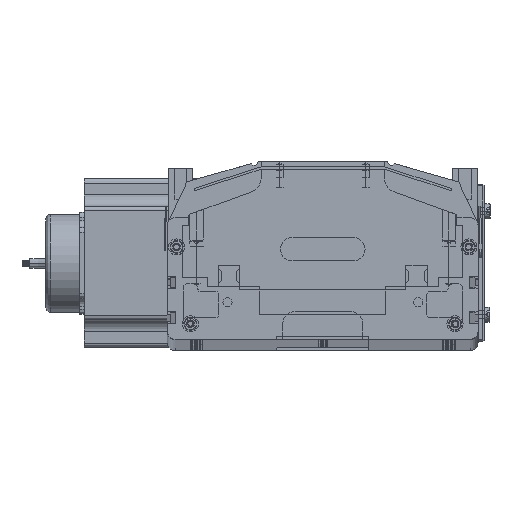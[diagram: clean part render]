
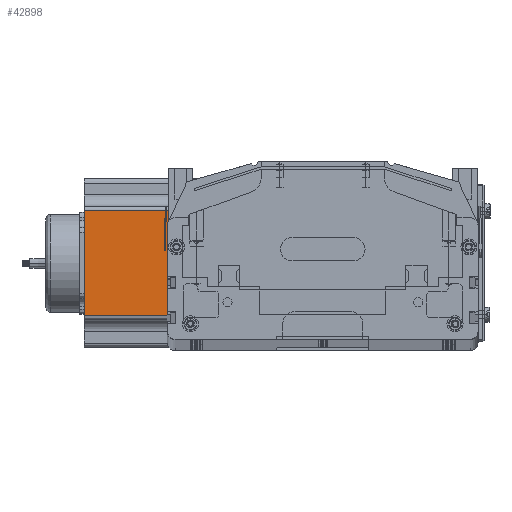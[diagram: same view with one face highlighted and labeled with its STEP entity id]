
A CAD part, top view. The second image highlights one B-rep face of the part: STEP entity #42898.
In plain terms, the highlighted planar face has unit normal (0, 0, 1) as drawn and (0, -1, 0) by its records, which use the part's own axes.
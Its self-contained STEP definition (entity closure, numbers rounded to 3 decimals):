
#39920 = CARTESIAN_POINT ( 'NONE',  ( 88.952, 0., 160.5 ) ) ;
#39922 = LINE ( 'NONE', #39953, #40172 ) ;
#39936 = AXIS2_PLACEMENT_3D ( 'NONE', #40032, #40030, #40177 ) ;
#39940 = PLANE ( 'NONE',  #39936 ) ;
#39941 = DIRECTION ( 'NONE',  ( 1., 0., 0. ) ) ;
#39943 = VECTOR ( 'NONE', #39941, 1000. ) ;
#39953 = CARTESIAN_POINT ( 'NONE',  ( 88.952, 0., 160.5 ) ) ;
#39955 = CARTESIAN_POINT ( 'NONE',  ( 0., 0., 0. ) ) ;
#39957 = LINE ( 'NONE', #39955, #39943 ) ;
#40030 = DIRECTION ( 'NONE',  ( 0., 1., 0. ) ) ;
#40032 = CARTESIAN_POINT ( 'NONE',  ( 0., 0., 160.5 ) ) ;
#40041 = CARTESIAN_POINT ( 'NONE',  ( 21.048, 0., 0. ) ) ;
#40044 = FACE_OUTER_BOUND ( 'NONE', #42879, .T. ) ;
#40170 = DIRECTION ( 'NONE',  ( 0., 0., 1. ) ) ;
#40172 = VECTOR ( 'NONE', #40170, 1000. ) ;
#40177 = DIRECTION ( 'NONE',  ( 0., 0., 1. ) ) ;
#40590 = CARTESIAN_POINT ( 'NONE',  ( 21.048, 0., 160.5 ) ) ;
#40882 = DIRECTION ( 'NONE',  ( 1., 0., 0. ) ) ;
#40884 = VECTOR ( 'NONE', #40882, 1000. ) ;
#40886 = CARTESIAN_POINT ( 'NONE',  ( 0., 0., 160.5 ) ) ;
#40887 = LINE ( 'NONE', #40886, #40884 ) ;
#40971 = DIRECTION ( 'NONE',  ( 0., 0., -1. ) ) ;
#40972 = VECTOR ( 'NONE', #40971, 1000. ) ;
#40974 = CARTESIAN_POINT ( 'NONE',  ( 21.048, 0., 160.5 ) ) ;
#40976 = LINE ( 'NONE', #40974, #40972 ) ;
#41008 = CARTESIAN_POINT ( 'NONE',  ( 88.952, 0., 0. ) ) ;
#42879 = EDGE_LOOP ( 'NONE', ( #42904, #42900, #43234, #43038 ) ) ;
#42887 = EDGE_CURVE ( 'NONE', #42906, #43190, #39957, .T. ) ;
#42893 = VERTEX_POINT ( 'NONE', #39920 ) ;
#42898 = ADVANCED_FACE ( 'NONE', ( #40044 ), #39940, .F. ) ;
#42900 = ORIENTED_EDGE ( 'NONE', *, *, #42905, .T. ) ;
#42904 = ORIENTED_EDGE ( 'NONE', *, *, #42887, .T. ) ;
#42905 = EDGE_CURVE ( 'NONE', #43190, #42893, #39922, .T. ) ;
#42906 = VERTEX_POINT ( 'NONE', #40041 ) ;
#43038 = ORIENTED_EDGE ( 'NONE', *, *, #43304, .T. ) ;
#43088 = VERTEX_POINT ( 'NONE', #40590 ) ;
#43190 = VERTEX_POINT ( 'NONE', #41008 ) ;
#43234 = ORIENTED_EDGE ( 'NONE', *, *, #43292, .F. ) ;
#43292 = EDGE_CURVE ( 'NONE', #43088, #42893, #40887, .T. ) ;
#43304 = EDGE_CURVE ( 'NONE', #43088, #42906, #40976, .T. ) ;
